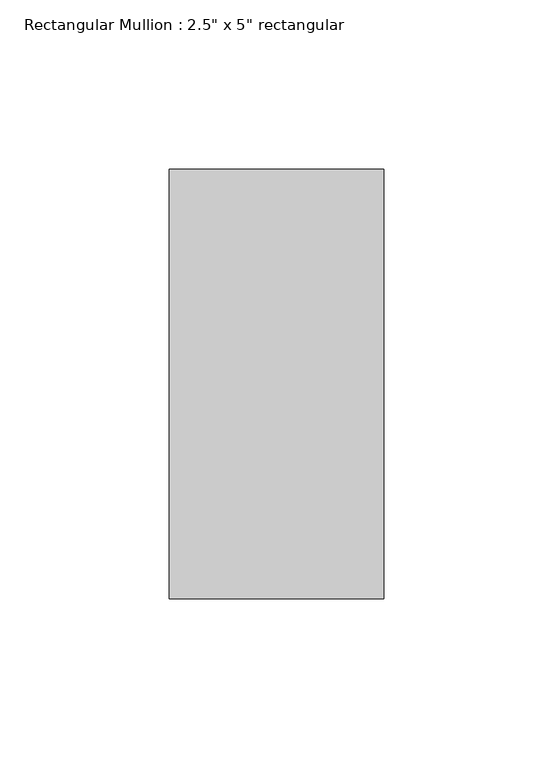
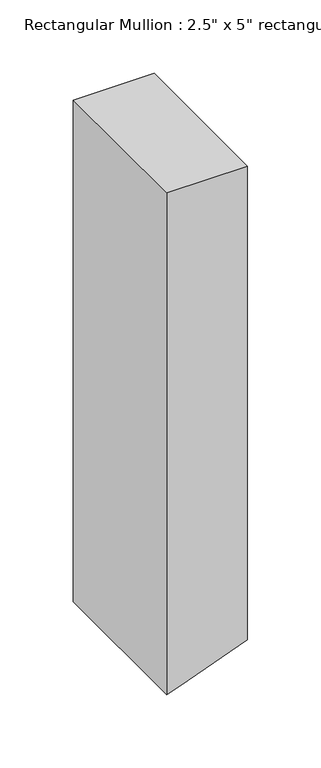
"""IFC4 building model written with IfcOpenShell, lengths in millimetres: member geometry."""

import ifcopenshell
import ifcopenshell.guid

model = None  # the IFC model being written
_history = None  # IfcOwnerHistory: only IFC2X3 demands one
_inside = {}  # id of a spatial element -> (the spatial element, [elements in it])
_under = {}  # id of a project, library or spatial element -> (it, [spatial elements below it])
_declared = {}  # id of a project -> (the project, [libraries it declares])
_typed = {}  # id of a type object -> (the type object, [elements of that type])
_made_of = {}  # id of a material, layer set ... -> (it, [elements and type objects made of it])


def new_model(schema):
    """Start an empty IFC model of exactly this schema.

    Asked for "IFC4X3", IfcOpenShell would pick the latest addendum, in which some entities
    have other attributes; the version numbers below select the first issue.
    IFC2X3 requires an IfcOwnerHistory on every rooted entity: one is made here for all.
    """
    global model, _history
    if schema == "IFC4X3":
        model = ifcopenshell.file(schema_version=(4, 3, 0, 0))
    else:
        model = ifcopenshell.file(schema=schema)
    _inside.clear()
    _under.clear()
    _declared.clear()
    _typed.clear()
    _made_of.clear()
    _history = None
    if model.schema == "IFC2X3":
        org = make("IfcOrganization", Name="unknown")
        user = make(
            "IfcPersonAndOrganization",
            ThePerson=make("IfcPerson", FamilyName="unknown"),
            TheOrganization=org,
        )
        app = make(
            "IfcApplication",
            ApplicationDeveloper=org,
            Version="unknown",
            ApplicationFullName="unknown",
            ApplicationIdentifier="unknown",
        )
        _history = make(
            "IfcOwnerHistory",
            OwningUser=user,
            OwningApplication=app,
            ChangeAction="ADDED",
            CreationDate=0,
        )
    return model


def make(cls, **values):
    """One entity of the class cls with the attributes given. An attribute that is None is left unset."""
    return model.create_entity(
        cls, **{name: value for name, value in values.items() if value is not None}
    )


def rooted(cls, **values):
    """An entity with a GlobalId (a new one), such as an element, a storey or a relation."""
    return make(cls, GlobalId=ifcopenshell.guid.new(), OwnerHistory=_history, **values)


def si_unit(unit_type, name, prefix=None):
    """IfcSIUnit, for example si_unit("LENGTHUNIT", "METRE", prefix="MILLI")."""
    return make("IfcSIUnit", UnitType=unit_type, Prefix=prefix, Name=name)


def assignment(units):
    """IfcUnitAssignment: the units of a project."""
    return None if units is None else make("IfcUnitAssignment", Units=units)


def point(xyz):
    """IfcCartesianPoint."""
    return None if xyz is None else make("IfcCartesianPoint", Coordinates=xyz)


def direction(xyz):
    """IfcDirection."""
    return None if xyz is None else make("IfcDirection", DirectionRatios=xyz)


def frame(location, z_axis=None, x_axis=None):
    """IfcAxis2Placement3D, a coordinate frame: its origin and axes. An axis left out is left unset."""
    return make(
        "IfcAxis2Placement3D",
        Location=point(location),
        Axis=direction(z_axis),
        RefDirection=direction(x_axis),
    )


def origin():
    """The frame at (0, 0, 0) with its axes left unset."""
    return frame((0.0, 0.0, 0.0))


def place(relative_to, where):
    """IfcLocalPlacement: puts the frame where relative to a parent placement (None: the world)."""
    return make(
        "IfcLocalPlacement", PlacementRelTo=relative_to, RelativePlacement=where
    )


def context(
    kind, dimensions, precision=None, world=None, true_north=None, identifier=None
):
    """IfcGeometricRepresentationContext, for example the 3D "Model" context."""
    return make(
        "IfcGeometricRepresentationContext",
        ContextIdentifier=identifier,
        ContextType=kind,
        CoordinateSpaceDimension=dimensions,
        Precision=precision,
        WorldCoordinateSystem=world,
        TrueNorth=true_north,
    )


def project(units=None, contexts=None):
    """IfcProject with its units and contexts."""
    return rooted(
        "IfcProject",
        Name="project",
        RepresentationContexts=contexts,
        UnitsInContext=assignment(units),
    )


def spatial(cls, under=None, at=None, **own):
    """A site, building, storey or space (cls), placed at a placement, below another one or the project."""
    s = rooted(cls, ObjectPlacement=at, **own)
    if under is not None:
        _under.setdefault(under.id(), (under, []))[1].append(s)
    return s


def circle_curve(where, radius):
    """IfcCircle in the frame where."""
    return make("IfcCircle", Position=where, Radius=radius)


def shape(context_of_items, identifier, shape_type, items):
    """IfcShapeRepresentation: the items that make up one representation, for example the "Body"."""
    return make(
        "IfcShapeRepresentation",
        ContextOfItems=context_of_items,
        RepresentationIdentifier=identifier,
        RepresentationType=shape_type,
        Items=items,
    )


def source(mapping_origin, context_of_items, identifier, shape_type, items):
    """IfcRepresentationMap: a shape defined once, which mapped items show again and again."""
    return make(
        "IfcRepresentationMap",
        MappingOrigin=mapping_origin,
        MappedRepresentation=shape(context_of_items, identifier, shape_type, items),
    )


def transform(
    local_origin,
    x_axis=None,
    y_axis=None,
    z_axis=None,
    scale=None,
    scale2=None,
    scale3=None,
    uniform=True,
):
    """IfcCartesianTransformationOperator3D, or its non-uniform kind. x_axis, y_axis, z_axis: its Axis1, 2, 3."""
    if uniform:
        return make(
            "IfcCartesianTransformationOperator3D",
            Axis1=direction(x_axis),
            Axis2=direction(y_axis),
            LocalOrigin=point(local_origin),
            Scale=scale,
            Axis3=direction(z_axis),
        )
    return make(
        "IfcCartesianTransformationOperator3DnonUniform",
        Axis1=direction(x_axis),
        Axis2=direction(y_axis),
        LocalOrigin=point(local_origin),
        Scale=scale,
        Axis3=direction(z_axis),
        Scale2=scale2,
        Scale3=scale3,
    )


def mapped(mapping_source, mapping_target):
    """IfcMappedItem: shows the shape of a source again, moved by a transform."""
    return make(
        "IfcMappedItem", MappingSource=mapping_source, MappingTarget=mapping_target
    )


def made_of(thing, what):
    """Note that an element or type object is made of a material, layer set ...; save() writes the relation."""
    if what is not None:
        _made_of.setdefault(what.id(), (what, []))[1].append(thing)
    return thing


def element(
    cls,
    number,
    at=None,
    inside=None,
    cuts=None,
    type_object=None,
    material=None,
    context=None,
    identifier="Body",
    shape_type=None,
    held_by="IfcProductDefinitionShape",
    body=None,
    shapes=None,
    **own,
):
    """One element of the class cls, such as IfcWall. Its Tag is "e" and its number.

    at: its placement. inside: the storey or other place that contains it. cuts: it is an
    opening in that element (IfcRelVoidsElement). A single representation is given by context,
    identifier, shape_type and body (its items); several are given by shapes. held_by: the class
    of the entity that holds the representations. save() writes the other relations.
    """
    e = rooted(cls, Tag="e%d" % number, ObjectPlacement=at, **own)
    if body is not None:
        shapes = [shape(context, identifier, shape_type, body)]
    if shapes is not None:
        e.Representation = make(held_by, Representations=shapes)
    if inside is not None:
        _inside.setdefault(inside.id(), (inside, []))[1].append(e)
    if cuts is not None:
        rooted(
            "IfcRelVoidsElement", RelatingBuildingElement=cuts, RelatedOpeningElement=e
        )
    if type_object is not None:
        _typed.setdefault(type_object.id(), (type_object, []))[1].append(e)
    return made_of(e, material)


def aggregate(whole, parts):
    """IfcRelAggregates: a whole, such as a stair, and the parts it consists of."""
    return rooted("IfcRelAggregates", RelatingObject=whole, RelatedObjects=parts)


def save(model, path):
    """Write the relations noted so far, then the file.

    IfcRelAggregates (storeys below a building ...), IfcRelContainedInSpatialStructure (elements
    in a storey), IfcRelDefinesByType, IfcRelAssociatesMaterial and IfcRelDeclares: one each for
    every whole, place, type object, material and project.
    """
    for whole, parts in _under.values():
        aggregate(whole, parts)
    for where, things in _inside.values():
        rooted(
            "IfcRelContainedInSpatialStructure",
            RelatedElements=things,
            RelatingStructure=where,
        )
    for kind, things in _typed.values():
        rooted("IfcRelDefinesByType", RelatedObjects=things, RelatingType=kind)
    for what, things in _made_of.values():
        rooted("IfcRelAssociatesMaterial", RelatedObjects=things, RelatingMaterial=what)
    for by, libraries in _declared.values():
        rooted("IfcRelDeclares", RelatingContext=by, RelatedDefinitions=libraries)
    model.write(path)


def plane_surface(at):
    """IfcPlane: the flat surface through the origin of the frame at, square to its z axis."""
    return make("IfcPlane", Position=at)


def cylinder_surface(at, radius):
    """IfcCylindricalSurface: all points at the distance radius from the z axis of the frame at."""
    return make("IfcCylindricalSurface", Position=at, Radius=radius)


def advanced_brep(points, edges, surfaces, faces):
    """IfcAdvancedBrep: a solid bounded by faces that lie on surfaces and meet in shared edges.

    An edge is (start, end): straight between two places in points (the first is 0);
    or (start, end, curve); or (start, end, curve, False) where it runs against its curve.
    A face is (place in surfaces, loops), or (place, loops, False) where it looks against
    its surface's normal. A loop lists edges by number (the first is 1), with a minus sign
    where the edge is run from its end to its start. The first loop is the outer one.
    """
    corners = [point(p) for p in points]
    vertices = [make("IfcVertexPoint", VertexGeometry=c) for c in corners]
    made = []
    for start, end, *more in edges:
        made.append(
            make(
                "IfcEdgeCurve",
                EdgeStart=vertices[start],
                EdgeEnd=vertices[end],
                EdgeGeometry=more[0] if more else make("IfcPolyline", Points=[corners[start], corners[end]]),
                SameSense=more[1] if len(more) > 1 else True,
            )
        )
    hull = []
    for where, loops, *sense in faces:
        bounds = []
        for j, loop in enumerate(loops):
            ring = [make("IfcOrientedEdge", EdgeElement=made[abs(k) - 1], Orientation=k > 0) for k in loop]
            bounds.append(
                make(
                    "IfcFaceOuterBound" if j == 0 else "IfcFaceBound",
                    Bound=make("IfcEdgeLoop", EdgeList=ring),
                    Orientation=True,
                )
            )
        hull.append(make("IfcAdvancedFace", Bounds=bounds, FaceSurface=surfaces[where], SameSense=sense[0] if sense else True))
    return make("IfcAdvancedBrep", Outer=make("IfcClosedShell", CfsFaces=hull))


def member_53d1b195(model_context):
    return source(origin(), model_context, "Body", "AdvancedBrep", [
        advanced_brep(
        [(31.75, 63.5, 0.0), (-31.75, 63.5, 0.0), (-31.75, -63.5, 0.0), (31.75, -63.5, 0.0), (31.75, 63.5, -393.7245172), (-21.1659471, 63.5, -413.3905389), (-31.75, 63.5, -417.0948038), (-31.75, -63.5, -417.0948038), (-21.1659471, -63.5, -413.3905389), (31.75, -63.5, -393.7245172)],
        [
            (0, 1),
            (1, 2),
            (2, 3),
            (3, 0),
            (0, 4),
            (4, 5, circle_curve(frame((-609.6, 63.5, 1250.95), z_axis=(0.0, 1.0, 0.0), x_axis=(0.7453559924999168, 0.0, -0.6666666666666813)), 1765.3)),
            (5, 6, circle_curve(frame((-609.6, 63.5, 1250.95), z_axis=(0.0, 1.0, 0.0), x_axis=(0.33333333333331, 0.0, -0.9428090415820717)), 1765.3)),
            (6, 1),
            (6, 7),
            (7, 2),
            (7, 8, circle_curve(frame((-609.6, -63.5, 1250.95), z_axis=(0.0, -1.0, 0.0), x_axis=(0.33333333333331, 0.0, -0.9428090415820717)), 1765.3)),
            (8, 9, circle_curve(frame((-609.6, -63.5, 1250.95), z_axis=(0.0, -1.0, 0.0), x_axis=(0.7453559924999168, 0.0, -0.6666666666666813)), 1765.3)),
            (9, 3),
            (9, 4),
            (8, 5),
        ],
        [
            plane_surface(frame((0.0, -70.9951583, 0.0), z_axis=(0.0, 0.0, 1.0), x_axis=(-1.0, 0.0, 0.0))),
            plane_surface(frame((31.75, 63.5, 0.0), z_axis=(0.0, 1.0, 0.0), x_axis=(0.0, 0.0, -1.0))),
            plane_surface(frame((-31.75, 63.5, 0.0), z_axis=(-1.0, 0.0, 0.0), x_axis=(0.0, 0.0, -1.0))),
            plane_surface(frame((-31.75, -63.5, 0.0), z_axis=(0.0, -1.0, 0.0), x_axis=(0.0, 0.0, -1.0))),
            plane_surface(frame((31.75, -63.5, 0.0), z_axis=(1.0, 0.0, 0.0), x_axis=(0.0, 0.0, -1.0))),
            cylinder_surface(frame((-609.6, 0.0, 1250.95), z_axis=(0.0, 1.0, 0.0), x_axis=(0.7453559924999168, 0.0, -0.6666666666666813)), 1765.3),
            cylinder_surface(frame((-609.6, 0.0, 1250.95), z_axis=(0.0, 1.0000000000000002, 0.0), x_axis=(0.33333333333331, 0.0, -0.9428090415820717)), 1765.3),
        ],
        [
            (0, [[1, 2, 3, 4]]),
            (1, [[-1, 5, 6, 7, 8]]),
            (2, [[-2, -8, 9, 10]]),
            (3, [[-3, -10, 11, 12, 13]]),
            (4, [[-4, -13, 14, -5]]),
            (5, [[-14, -12, 15, -6]]),
            (6, [[-11, -9, -7, -15]]),
        ],
    ),
    ])


if __name__ == "__main__":
    model = new_model("IFC4")
    model_context = context("Model", 3, world=origin())
    ifc_project = project(units=[si_unit("LENGTHUNIT", "METRE", prefix="MILLI")], contexts=[model_context])
    site = spatial("IfcSite", under=ifc_project)
    building = spatial("IfcBuilding", under=site)
    placement = place(None, origin())
    member_shape = member_53d1b195(model_context)
    element("IfcMember", 1, ObjectType="Rectangular Mullion : 2.5\" x 5\" rectangular", at=placement, inside=building, context=model_context, shape_type="MappedRepresentation", body=[
        mapped(member_shape, transform((0.0, 0.0, 0.0), x_axis=(1.0, 0.0, 0.0), y_axis=(0.0, 1.0, 0.0), z_axis=(0.0, 0.0, 1.0))),
    ])
    save(model, "model.ifc")
